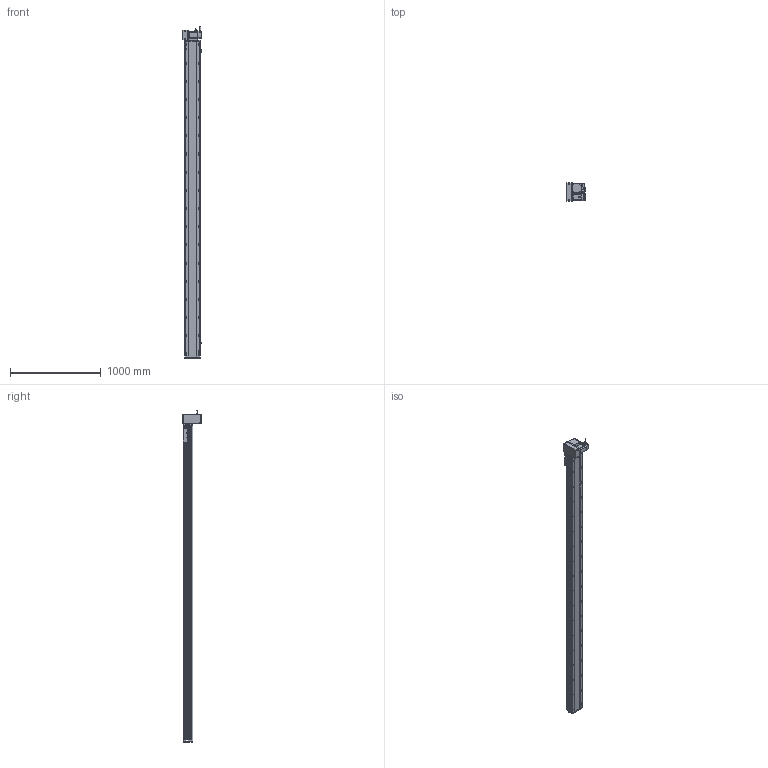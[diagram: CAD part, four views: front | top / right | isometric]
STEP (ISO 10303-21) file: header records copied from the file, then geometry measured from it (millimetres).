
FILE_DESCRIPTION (( 'STEP AP214' ), '1' );
FILE_NAME ('RTB17S-XX-3200-LM-M75-C4.STEP', '2025-12-12T00:50:54', ( '' ), ( '' ), 'SwSTEP 2.0', 'SolidWorks 2018', '' );
FILE_SCHEMA (( 'AUTOMOTIVE_DESIGN' ));
Length unit declared in the file: millimetre
Products named in the file (15): 750W萇儂^RTB17S-XX-XX-LM-M75-C4; RTB22S-GY-018P^RTB17S-LM-々湍釱蚾饜-750W_RTB17S-XX-XX-LM-M75-C4; RTB17S-LM-々湍釱蚾饜-750W^RTB17S-XX-XX-LM-M75-C4; RTB22S-GY-008-M75--萇儂啣^RTB17S-LM-々湍釱蚾饜-750W_RTB17S-XX-XX-LM-M75-C4; EE672^RTB17S-XX-XX-LM-M75-C4; RTB17S-L-001-耜醱啣^RTB17S-XX-XX-LM-M75-C4; RTB17S-L-004-賑釱^RTB17S-賑釱_RTB17S-XX-XX-LM-M75-C4; RTH13-BL-012覜茼え俋离^RTB17S-賑釱_RTB17S-XX-XX-LM-M75-C4; RTB22S-GY-017P^RTB17S-LM-々湍釱蚾饜-750W_RTB17S-XX-XX-LM-M75-C4; RTB17S-L-014-T20-P75--々湍釱^RTB17S-LM-々湍釱蚾饜-750W_RTB17S-XX-XX-LM-M75-C4; RTB17S-賑釱^RTB17S-XX-XX-LM-M75-C4; RTB17-R-011菁釱^RTB17S-XX-XX-LM-M75-C4; RTB22S-GY-005P^RTB17S-LM-々湍釱蚾饜-750W_RTB17S-XX-XX-LM-M75-C4; RTB17S-XX-3200-LM-M75-C4; RTB17S-L-007奻裔^RTB17S-XX-XX-LM-M75-C4
Assembly tree (17 placements, depth 3):
  RTB17S-XX-3200-LM-M75-C4
    RTB17-R-011菁釱^RTB17S-XX-XX-LM-M75-C4
    EE672^RTB17S-XX-XX-LM-M75-C4  x3
    RTB17S-L-001-耜醱啣^RTB17S-XX-XX-LM-M75-C4
    RTB17S-賑釱^RTB17S-XX-XX-LM-M75-C4
      RTB17S-L-004-賑釱^RTB17S-賑釱_RTB17S-XX-XX-LM-M75-C4
      RTH13-BL-012覜茼え俋离^RTB17S-賑釱_RTB17S-XX-XX-LM-M75-C4
    RTB17S-L-007奻裔^RTB17S-XX-XX-LM-M75-C4
    750W萇儂^RTB17S-XX-XX-LM-M75-C4
    RTB17S-LM-々湍釱蚾饜-750W^RTB17S-XX-XX-LM-M75-C4
      RTB17S-L-014-T20-P75--々湍釱^RTB17S-LM-々湍釱蚾饜-750W_RTB17S-XX-XX-LM-M75-C4
      RTB22S-GY-005P^RTB17S-LM-々湍釱蚾饜-750W_RTB17S-XX-XX-LM-M75-C4
      RTB22S-GY-017P^RTB17S-LM-々湍釱蚾饜-750W_RTB17S-XX-XX-LM-M75-C4  x2
      RTB22S-GY-008-M75--萇儂啣^RTB17S-LM-々湍釱蚾饜-750W_RTB17S-XX-XX-LM-M75-C4
      RTB22S-GY-018P^RTB17S-LM-々湍釱蚾饜-750W_RTB17S-XX-XX-LM-M75-C4
Bounding box: 210.4 x 200 x 3652.2 mm (x, y, z)
Volume: 25956309.7 mm3; surface area: 4772344 mm2
Topology: 17 solids, 17 shells, 2265 faces, 6376 edges, 4130 vertices
Faces by surface type: plane 992, cylinder 857, bspline 294, cone 110, sphere 8, torus 4
Entity records: 66550 total; most frequent: CARTESIAN_POINT 19840, ORIENTED_EDGE 9596, DIRECTION 8852, EDGE_CURVE 4798, AXIS2_PLACEMENT_3D 3150, VERTEX_POINT 3134, VECTOR 2552, LINE 2552
